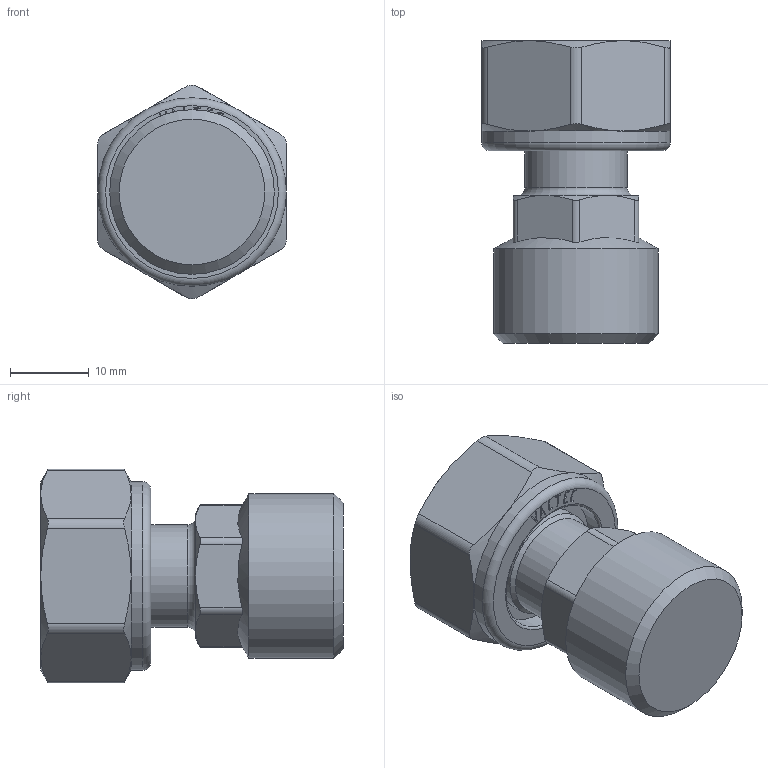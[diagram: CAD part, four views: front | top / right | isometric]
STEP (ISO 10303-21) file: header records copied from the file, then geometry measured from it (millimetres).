
FILE_DESCRIPTION(('STEP AP203'), '1');
FILE_NAME('覆.302638.008.000 捘 - VTr.613.N.0404', '2024-07-10T08:05:50', ('Boss'), (''), 'C3D Converter', 'C3D Toolkit', '');
FILE_SCHEMA(('CONFIG_CONTROL_DESIGN'));
Length unit declared in the file: millimetre
Products named in the file (1): ВР.302638.008.000 СБ
Bounding box: 24 x 38.5 x 27.24 mm (x, y, z)
Volume: 11078.2 mm3; surface area: 4354 mm2
Topology: 1 solids, 1 shells, 179 faces, 471 edges, 305 vertices
Faces by surface type: extrusion 71, plane 65, cone 22, cylinder 18, torus 3
Full cylindrical faces by diameter (mm): 13 x1, 14 x1, 17 x1, 18.632 x1, 20.955 x1, 24 x1
Entity records: 7138 total; most frequent: CARTESIAN_POINT 3168, ORIENTED_EDGE 908, DIRECTION 564, EDGE_CURVE 454, VERTEX_POINT 303, VECTOR 286, B_SPLINE_CURVE_WITH_KNOTS 278, LINE 215
